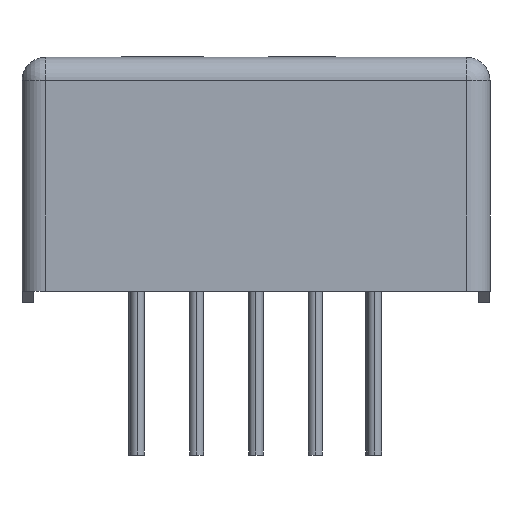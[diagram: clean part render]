
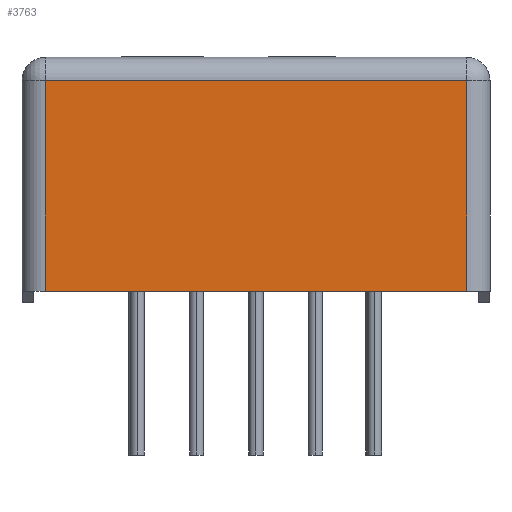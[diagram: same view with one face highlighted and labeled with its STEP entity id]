
A CAD part, left-side view. The second image highlights one B-rep face of the part: STEP entity #3763.
In plain terms, the highlighted planar face has unit normal (-1, 0, 0).
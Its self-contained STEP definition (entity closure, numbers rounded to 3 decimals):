
#37 = EDGE_CURVE ( 'NONE', #5366, #1359, #7071, .T. ) ;
#55 = CARTESIAN_POINT ( 'NONE',  ( -16., 9., 9. ) ) ;
#95 = DIRECTION ( 'NONE',  ( 0., 0., 1. ) ) ;
#137 = CARTESIAN_POINT ( 'NONE',  ( -16., -9., 10. ) ) ;
#235 = VECTOR ( 'NONE', #3160, 1000. ) ;
#401 = ORIENTED_EDGE ( 'NONE', *, *, #37, .T. ) ;
#636 = VERTEX_POINT ( 'NONE', #55 ) ;
#666 = LINE ( 'NONE', #1765, #1494 ) ;
#954 = CARTESIAN_POINT ( 'NONE',  ( -16., 10., 9. ) ) ;
#1278 = ORIENTED_EDGE ( 'NONE', *, *, #3020, .T. ) ;
#1359 = VERTEX_POINT ( 'NONE', #4666 ) ;
#1414 = DIRECTION ( 'NONE',  ( 0., 0., 1. ) ) ;
#1494 = VECTOR ( 'NONE', #1862, 1000. ) ;
#1567 = EDGE_CURVE ( 'NONE', #636, #4671, #666, .T. ) ;
#1765 = CARTESIAN_POINT ( 'NONE',  ( -16., 9., 10. ) ) ;
#1856 = AXIS2_PLACEMENT_3D ( 'NONE', #4276, #6635, #1414 ) ;
#1862 = DIRECTION ( 'NONE',  ( 0., 0., -1. ) ) ;
#2718 = EDGE_LOOP ( 'NONE', ( #1278, #6447, #7207, #401 ) ) ;
#2918 = VECTOR ( 'NONE', #95, 1000. ) ;
#3020 = EDGE_CURVE ( 'NONE', #1359, #636, #7201, .T. ) ;
#3160 = DIRECTION ( 'NONE',  ( 0., 1., 0. ) ) ;
#3763 = ADVANCED_FACE ( 'NONE', ( #6484 ), #6456, .T. ) ;
#4276 = CARTESIAN_POINT ( 'NONE',  ( -16., -10., 10. ) ) ;
#4666 = CARTESIAN_POINT ( 'NONE',  ( -16., -9., 9. ) ) ;
#4671 = VERTEX_POINT ( 'NONE', #5016 ) ;
#5016 = CARTESIAN_POINT ( 'NONE',  ( -16., 9., 0. ) ) ;
#5366 = VERTEX_POINT ( 'NONE', #5992 ) ;
#5654 = CARTESIAN_POINT ( 'NONE',  ( -16., -10., 0. ) ) ;
#5907 = VECTOR ( 'NONE', #6867, 1000. ) ;
#5992 = CARTESIAN_POINT ( 'NONE',  ( -16., -9., 0. ) ) ;
#6447 = ORIENTED_EDGE ( 'NONE', *, *, #1567, .T. ) ;
#6456 = PLANE ( 'NONE',  #1856 ) ;
#6484 = FACE_OUTER_BOUND ( 'NONE', #2718, .T. ) ;
#6635 = DIRECTION ( 'NONE',  ( -1., 0., 0. ) ) ;
#6736 = EDGE_CURVE ( 'NONE', #5366, #4671, #7507, .T. ) ;
#6867 = DIRECTION ( 'NONE',  ( 0., 1., 0. ) ) ;
#7071 = LINE ( 'NONE', #137, #2918 ) ;
#7201 = LINE ( 'NONE', #954, #235 ) ;
#7207 = ORIENTED_EDGE ( 'NONE', *, *, #6736, .F. ) ;
#7507 = LINE ( 'NONE', #5654, #5907 ) ;
